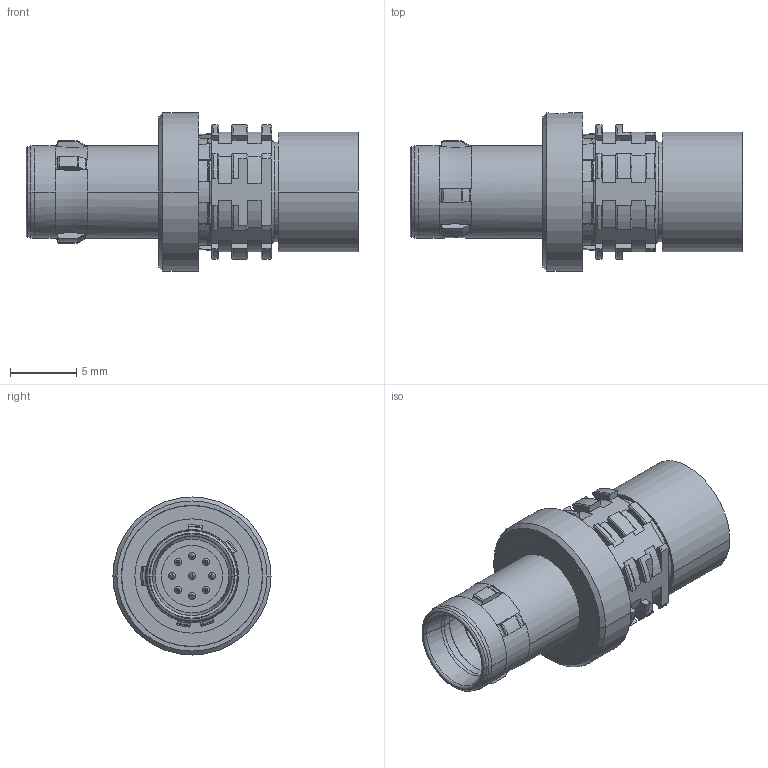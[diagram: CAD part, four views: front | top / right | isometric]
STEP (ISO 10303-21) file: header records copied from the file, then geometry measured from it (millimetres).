
FILE_DESCRIPTION((''),'2;1');
FILE_NAME('00050221_SW0001','2014-04-22T',('SUnterbluemhuber'),(''),'PRO/ENGINEER BY PARAMETRIC TECHNOLOGY CORPORATION, 2013050','PRO/ENGINEER BY PARAMETRIC TECHNOLOGY CORPORATION, 2013050','');
FILE_SCHEMA(('AUTOMOTIVE_DESIGN { 1 0 10303 214 1 1 1 1 }'));
Length unit declared in the file: millimetre
Products named in the file (1): 00050221_SW0001
Bounding box: 25 x 11.9 x 11.9 mm (x, y, z)
Volume: 1004.8 mm3; surface area: 2263.8 mm2
Topology: 2 solids, 2 shells, 748 faces, 1954 edges, 1221 vertices
Faces by surface type: cylinder 259, plane 231, torus 133, cone 89, bspline 18, sphere 18
Entity records: 34369 total; most frequent: CARTESIAN_POINT 10615, DIRECTION 3889, ORIENTED_EDGE 3836, EDGE_CURVE 1918, AXIS2_PLACEMENT_3D 1551, VERTEX_POINT 1221, CIRCLE 821, EDGE_LOOP 815
